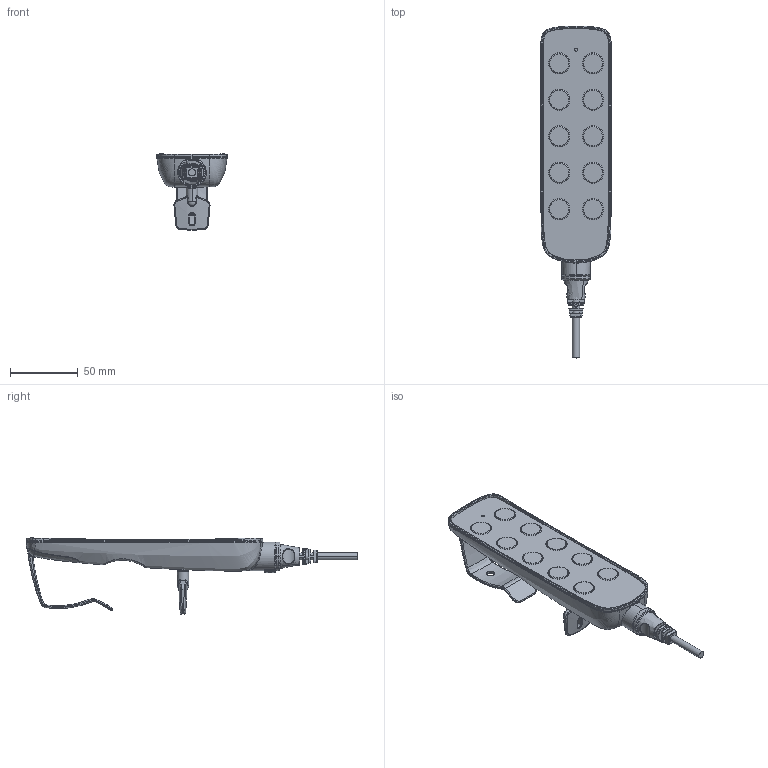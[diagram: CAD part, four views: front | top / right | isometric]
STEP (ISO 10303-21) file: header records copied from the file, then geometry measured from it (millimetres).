
FILE_DESCRIPTION (( 'STEP AP203' ), '1' );
FILE_NAME ('TMH3-A.STEP', '2017-05-18T03:30:50', ( '' ), ( '' ), 'SwSTEP 2.0', 'SolidWorks 2015', '' );
FILE_SCHEMA (( 'CONFIG_CONTROL_DESIGN' ));
Length unit declared in the file: millimetre
Products named in the file (1): TMH3-A
Bounding box: 51.99 x 245.84 x 56.31 mm (x, y, z)
Volume: 167491.1 mm3; surface area: 72569.4 mm2
Topology: 9 solids, 9 shells, 577 faces, 1445 edges, 897 vertices
Faces by surface type: bspline 314, plane 96, cylinder 80, torus 72, sphere 8, cone 7
Entity records: 44901 total; most frequent: CARTESIAN_POINT 33477, ORIENTED_EDGE 2870, DIRECTION 1589, EDGE_CURVE 1435, VERTEX_POINT 897, B_SPLINE_CURVE_WITH_KNOTS 766, AXIS2_PLACEMENT_3D 658, EDGE_LOOP 610
